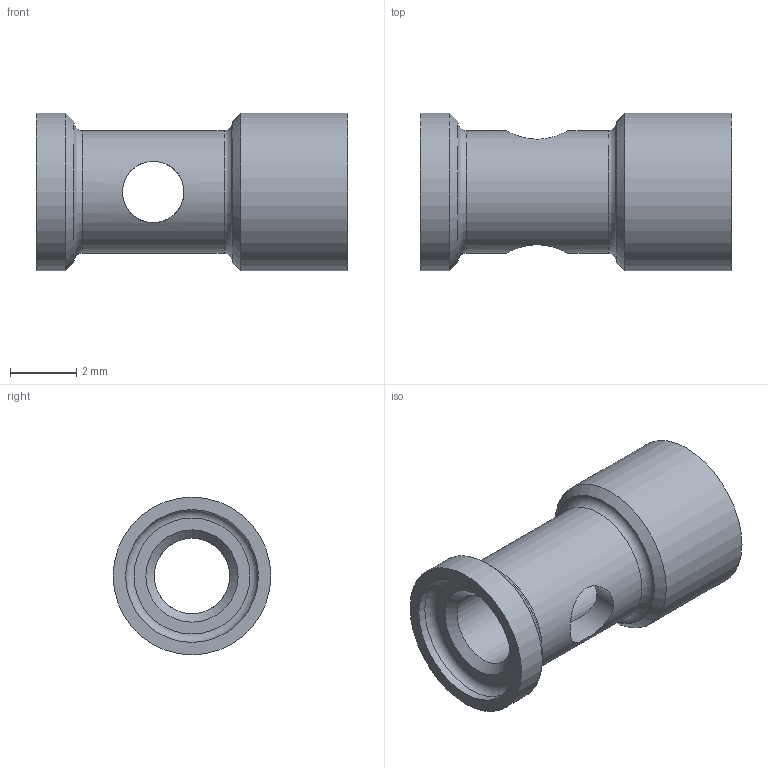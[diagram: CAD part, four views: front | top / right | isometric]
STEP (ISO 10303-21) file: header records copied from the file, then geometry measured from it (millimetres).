
FILE_DESCRIPTION (( 'STEP AP203' ), '1' );
FILE_NAME ('DIAD1871001.STEP', '2025-03-26T11:53:35', ( '' ), ( '' ), 'SwSTEP 2.0', 'SolidWorks 2023', '' );
FILE_SCHEMA (( 'CONFIG_CONTROL_DESIGN' ));
Length unit declared in the file: inch
Products named in the file (1): DIAD1871001
Bounding box: 9.4 x 4.75 x 4.75 mm (x, y, z)
Volume: 76.7 mm3; surface area: 223.9 mm2
Topology: 1 solids, 1 shells, 22 faces, 45 edges, 28 vertices
Faces by surface type: cylinder 8, cone 5, plane 5, torus 4
Full cylindrical faces by diameter (mm): 1.854 x2, 2.273 x1, 3.683 x1, 3.746 x1, 4 x1, 4.751 x2
Entity records: 679 total; most frequent: CARTESIAN_POINT 207, DIRECTION 86, EDGE_LOOP 48, ORIENTED_EDGE 48, AXIS2_PLACEMENT_3D 43, FACE_OUTER_BOUND 34, VERTEX_POINT 24, EDGE_CURVE 24
